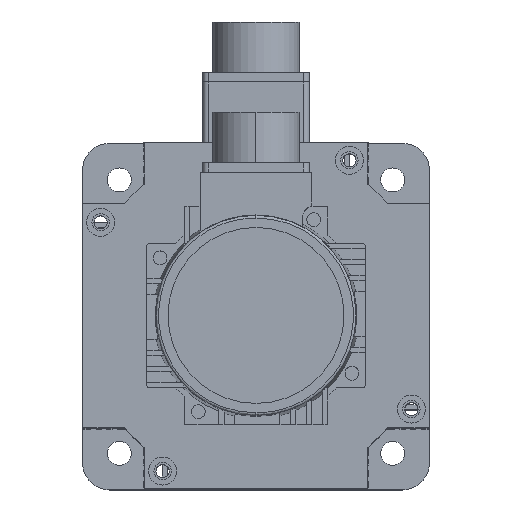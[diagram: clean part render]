
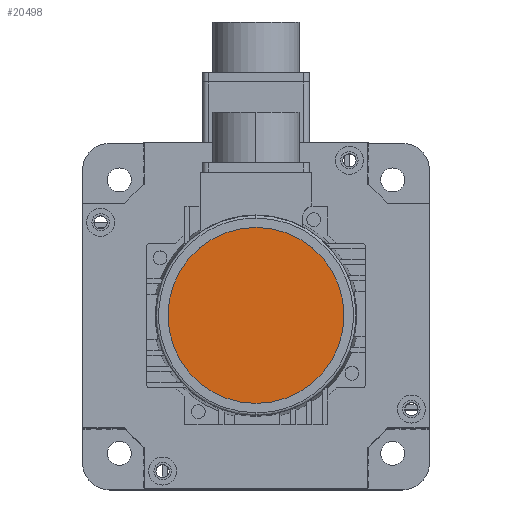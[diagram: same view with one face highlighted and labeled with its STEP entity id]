
A CAD part, top view. The second image highlights one B-rep face of the part: STEP entity #20498.
In plain terms, the highlighted planar face has unit normal (0, 0, 1).
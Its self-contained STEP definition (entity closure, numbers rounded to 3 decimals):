
#3744 = ORIENTED_EDGE ( 'NONE', *, *, #41585, .T. ) ;
#4722 = DIRECTION ( 'NONE',  ( 1., 0., 0. ) ) ;
#6167 = DIRECTION ( 'NONE',  ( 0., 0., 1. ) ) ;
#10178 = AXIS2_PLACEMENT_3D ( 'NONE', #19472, #6167, #43784 ) ;
#10257 = DIRECTION ( 'NONE',  ( 0., 0., 1. ) ) ;
#19472 = CARTESIAN_POINT ( 'NONE',  ( -12.761, -14.869, 18.555 ) ) ;
#19549 = CARTESIAN_POINT ( 'NONE',  ( -45.761, -14.869, 18.555 ) ) ;
#19840 = PLANE ( 'NONE',  #23156 ) ;
#19998 = CARTESIAN_POINT ( 'NONE',  ( 20.239, -14.869, 18.555 ) ) ;
#20498 = ADVANCED_FACE ( 'NONE', ( #37134 ), #19840, .T. ) ;
#21880 = CARTESIAN_POINT ( 'NONE',  ( -12.761, -14.869, 18.555 ) ) ;
#22338 = EDGE_LOOP ( 'NONE', ( #34194, #3744 ) ) ;
#23156 = AXIS2_PLACEMENT_3D ( 'NONE', #43574, #10257, #40691 ) ;
#31652 = VERTEX_POINT ( 'NONE', #19998 ) ;
#33240 = CIRCLE ( 'NONE', #10178, 33. ) ;
#34194 = ORIENTED_EDGE ( 'NONE', *, *, #43339, .T. ) ;
#35871 = AXIS2_PLACEMENT_3D ( 'NONE', #21880, #42465, #4722 ) ;
#36503 = CIRCLE ( 'NONE', #35871, 33. ) ;
#37134 = FACE_OUTER_BOUND ( 'NONE', #22338, .T. ) ;
#38723 = VERTEX_POINT ( 'NONE', #19549 ) ;
#40691 = DIRECTION ( 'NONE',  ( 1., 0., 0. ) ) ;
#41585 = EDGE_CURVE ( 'NONE', #38723, #31652, #36503, .T. ) ;
#42465 = DIRECTION ( 'NONE',  ( 0., 0., 1. ) ) ;
#43339 = EDGE_CURVE ( 'NONE', #31652, #38723, #33240, .T. ) ;
#43574 = CARTESIAN_POINT ( 'NONE',  ( -12.761, -14.869, 18.555 ) ) ;
#43784 = DIRECTION ( 'NONE',  ( 1., 0., 0. ) ) ;
